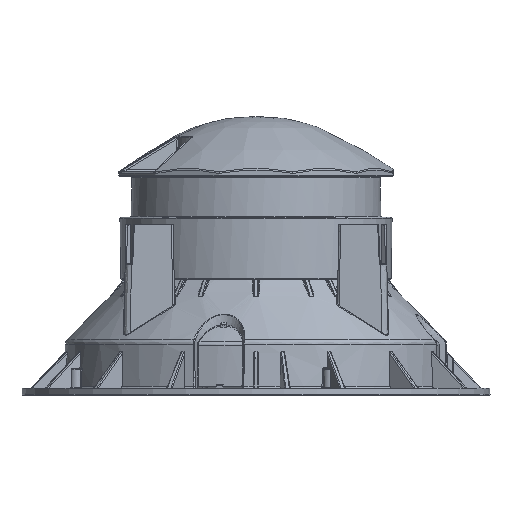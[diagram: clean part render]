
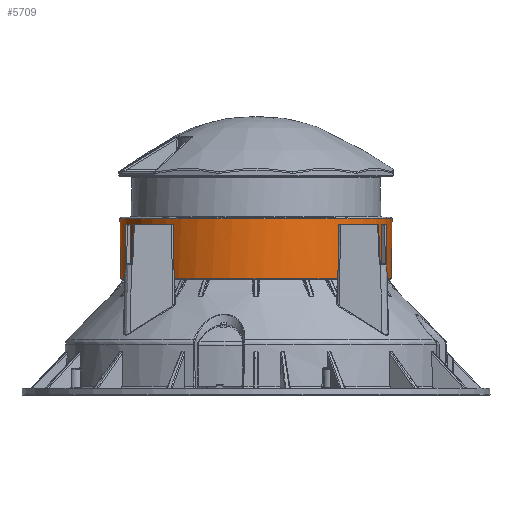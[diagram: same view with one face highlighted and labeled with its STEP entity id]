
A CAD part, front view. The second image highlights one B-rep face of the part: STEP entity #5709.
In plain terms, the highlighted free-form (B-spline) face has degree [2, 1] with [5, 2] control points.
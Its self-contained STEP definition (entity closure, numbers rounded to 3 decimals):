
#1872=B_SPLINE_CURVE_WITH_KNOTS('',1,(#86693,#86694),.UNSPECIFIED.,.F.,
 .F.,(2,2),(3.981,37.178),.UNSPECIFIED.);
#1874=B_SPLINE_CURVE_WITH_KNOTS('',1,(#86782,#86783),.UNSPECIFIED.,.F.,
 .F.,(2,2),(3.986,37.178),.UNSPECIFIED.);
#3802=(
BOUNDED_SURFACE()
B_SPLINE_SURFACE(2,1,((#86616,#86617),(#86618,#86619),(#86620,#86621),(#86622,
#86623),(#86624,#86625)),.UNSPECIFIED.,.F.,.F.,.F.)
B_SPLINE_SURFACE_WITH_KNOTS((3,2,3),(2,2),(237.662,356.493,
475.324),(0.,41.159),.UNSPECIFIED.)
GEOMETRIC_REPRESENTATION_ITEM()
RATIONAL_B_SPLINE_SURFACE(((1.,1.),(0.707,0.707),
(1.,1.),(0.707,0.707),(1.,1.)))
REPRESENTATION_ITEM('')
SURFACE()
);
#5709=ADVANCED_FACE('',(#7690),#3802,.T.);
#7690=FACE_OUTER_BOUND('',#9683,.T.);
#9683=EDGE_LOOP('',(#18461,#18462,#18463,#18464));
#18461=ORIENTED_EDGE('',*,*,#24166,.T.);
#18462=ORIENTED_EDGE('',*,*,#24176,.T.);
#18463=ORIENTED_EDGE('',*,*,#24177,.T.);
#18464=ORIENTED_EDGE('',*,*,#24197,.F.);
#24166=EDGE_CURVE('',#30322,#30323,#27500,.T.);
#24176=EDGE_CURVE('',#30323,#30317,#1872,.T.);
#24177=EDGE_CURVE('',#30317,#30330,#27509,.T.);
#24197=EDGE_CURVE('',#30322,#30330,#1874,.T.);
#27500=(
BOUNDED_CURVE()
B_SPLINE_CURVE(2,(#86652,#86653,#86654,#86655,#86656),.UNSPECIFIED.,.F.,
 .F.)
B_SPLINE_CURVE_WITH_KNOTS((3,2,3),(0.,117.823,235.646),
 .UNSPECIFIED.)
CURVE()
GEOMETRIC_REPRESENTATION_ITEM()
RATIONAL_B_SPLINE_CURVE((1.,0.707,1.,0.707,1.))
REPRESENTATION_ITEM('')
);
#27509=(
BOUNDED_CURVE()
B_SPLINE_CURVE(2,(#86695,#86696,#86697,#86698,#86699),.UNSPECIFIED.,.F.,
 .F.)
B_SPLINE_CURVE_WITH_KNOTS((3,2,3),(237.446,356.169,474.892),
 .UNSPECIFIED.)
CURVE()
GEOMETRIC_REPRESENTATION_ITEM()
RATIONAL_B_SPLINE_CURVE((1.,0.707,1.,0.707,1.))
REPRESENTATION_ITEM('')
);
#30317=VERTEX_POINT('',#86626);
#30322=VERTEX_POINT('',#86631);
#30323=VERTEX_POINT('',#86632);
#30330=VERTEX_POINT('',#86639);
#86616=CARTESIAN_POINT('',(-74.94,0.,-64.189));
#86617=CARTESIAN_POINT('',(-75.65,0.,-23.037));
#86618=CARTESIAN_POINT('',(-74.94,-74.94,-64.189));
#86619=CARTESIAN_POINT('',(-75.65,-75.65,-23.037));
#86620=CARTESIAN_POINT('',(0.,-74.94,-64.189));
#86621=CARTESIAN_POINT('',(0.,-75.65,-23.037));
#86622=CARTESIAN_POINT('',(74.94,-74.94,-64.189));
#86623=CARTESIAN_POINT('',(75.65,-75.65,-23.037));
#86624=CARTESIAN_POINT('',(74.94,0.,-64.189));
#86625=CARTESIAN_POINT('',(75.65,0.,-23.037));
#86626=CARTESIAN_POINT('',(75.582,0.,-27.009));
#86631=CARTESIAN_POINT('',(-75.009,0.,-60.203));
#86632=CARTESIAN_POINT('',(75.009,0.,-60.209));
#86639=CARTESIAN_POINT('',(-75.581,0.,-27.017));
#86652=CARTESIAN_POINT('',(-75.009,0.,-60.203));
#86653=CARTESIAN_POINT('',(-75.009,-75.009,-60.203));
#86654=CARTESIAN_POINT('',(0.,-75.009,-60.206));
#86655=CARTESIAN_POINT('',(75.009,-75.009,-60.209));
#86656=CARTESIAN_POINT('',(75.009,0.,-60.209));
#86693=CARTESIAN_POINT('',(75.009,0.,-60.209));
#86694=CARTESIAN_POINT('',(75.582,0.,-27.009));
#86695=CARTESIAN_POINT('',(75.582,0.,-27.009));
#86696=CARTESIAN_POINT('',(75.582,-75.581,-27.009));
#86697=CARTESIAN_POINT('',(0.,-75.581,-27.013));
#86698=CARTESIAN_POINT('',(-75.581,-75.581,-27.017));
#86699=CARTESIAN_POINT('',(-75.581,0.,-27.017));
#86782=CARTESIAN_POINT('',(-75.009,0.,-60.203));
#86783=CARTESIAN_POINT('',(-75.581,0.,-27.017));
